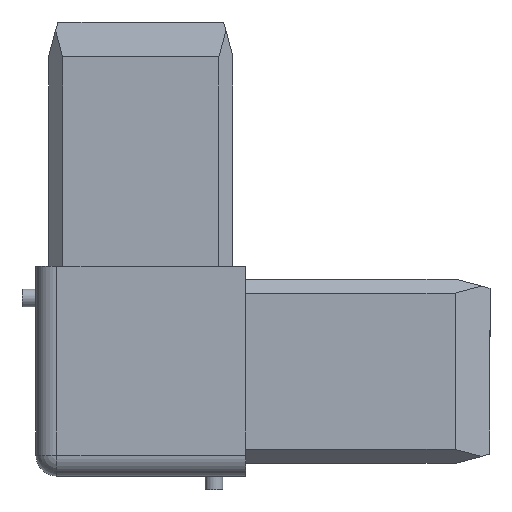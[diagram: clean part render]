
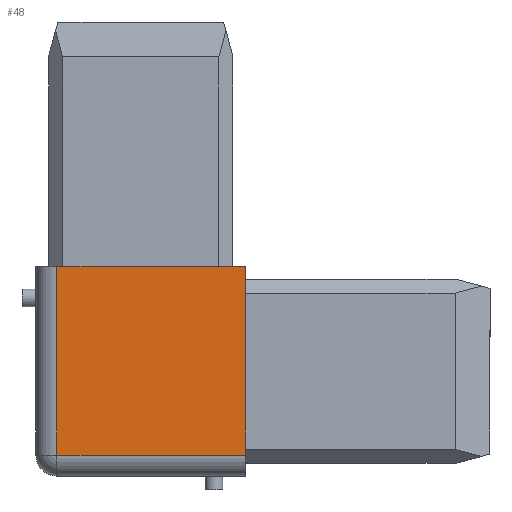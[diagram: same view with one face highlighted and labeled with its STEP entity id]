
A CAD part, front view. The second image highlights one B-rep face of the part: STEP entity #48.
In plain terms, the highlighted planar face has unit normal (0, -1, 0).
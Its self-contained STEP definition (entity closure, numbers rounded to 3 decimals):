
#31 = VERTEX_POINT ( 'NONE', #588 ) ;
#48 = ADVANCED_FACE ( 'NONE', ( #514 ), #991, .F. ) ;
#68 = DIRECTION ( 'NONE',  ( -1., 0., 0. ) ) ;
#75 = CARTESIAN_POINT ( 'NONE',  ( 15., -15., 15. ) ) ;
#206 = DIRECTION ( 'NONE',  ( 0., 0., -1. ) ) ;
#219 = LINE ( 'NONE', #686, #235 ) ;
#235 = VECTOR ( 'NONE', #206, 1000. ) ;
#247 = DIRECTION ( 'NONE',  ( 0., 0., -1. ) ) ;
#292 = CARTESIAN_POINT ( 'NONE',  ( -12., -15., 15. ) ) ;
#294 = DIRECTION ( 'NONE',  ( 1., 0., 0. ) ) ;
#297 = CARTESIAN_POINT ( 'NONE',  ( 15., -15., 15. ) ) ;
#314 = LINE ( 'NONE', #75, #435 ) ;
#346 = AXIS2_PLACEMENT_3D ( 'NONE', #297, #1130, #68 ) ;
#435 = VECTOR ( 'NONE', #294, 1000. ) ;
#458 = LINE ( 'NONE', #810, #709 ) ;
#479 = ORIENTED_EDGE ( 'NONE', *, *, #1227, .T. ) ;
#514 = FACE_OUTER_BOUND ( 'NONE', #517, .T. ) ;
#517 = EDGE_LOOP ( 'NONE', ( #590, #479, #1083, #1504 ) ) ;
#568 = DIRECTION ( 'NONE',  ( 1., 0., 0. ) ) ;
#583 = CARTESIAN_POINT ( 'NONE',  ( 15., -15., 15. ) ) ;
#588 = CARTESIAN_POINT ( 'NONE',  ( 15., -15., -12. ) ) ;
#590 = ORIENTED_EDGE ( 'NONE', *, *, #1009, .T. ) ;
#686 = CARTESIAN_POINT ( 'NONE',  ( 15., -15., 15. ) ) ;
#696 = VERTEX_POINT ( 'NONE', #1115 ) ;
#709 = VECTOR ( 'NONE', #568, 1000. ) ;
#810 = CARTESIAN_POINT ( 'NONE',  ( 15., -15., -12. ) ) ;
#991 = PLANE ( 'NONE',  #346 ) ;
#1009 = EDGE_CURVE ( 'NONE', #1502, #696, #1187, .T. ) ;
#1083 = ORIENTED_EDGE ( 'NONE', *, *, #1354, .F. ) ;
#1115 = CARTESIAN_POINT ( 'NONE',  ( -12., -15., -12. ) ) ;
#1130 = DIRECTION ( 'NONE',  ( 0., 1., 0. ) ) ;
#1160 = EDGE_CURVE ( 'NONE', #1502, #1336, #314, .T. ) ;
#1187 = LINE ( 'NONE', #1298, #1440 ) ;
#1227 = EDGE_CURVE ( 'NONE', #696, #31, #458, .T. ) ;
#1298 = CARTESIAN_POINT ( 'NONE',  ( -12., -15., 15. ) ) ;
#1336 = VERTEX_POINT ( 'NONE', #583 ) ;
#1354 = EDGE_CURVE ( 'NONE', #1336, #31, #219, .T. ) ;
#1440 = VECTOR ( 'NONE', #247, 1000. ) ;
#1502 = VERTEX_POINT ( 'NONE', #292 ) ;
#1504 = ORIENTED_EDGE ( 'NONE', *, *, #1160, .F. ) ;
